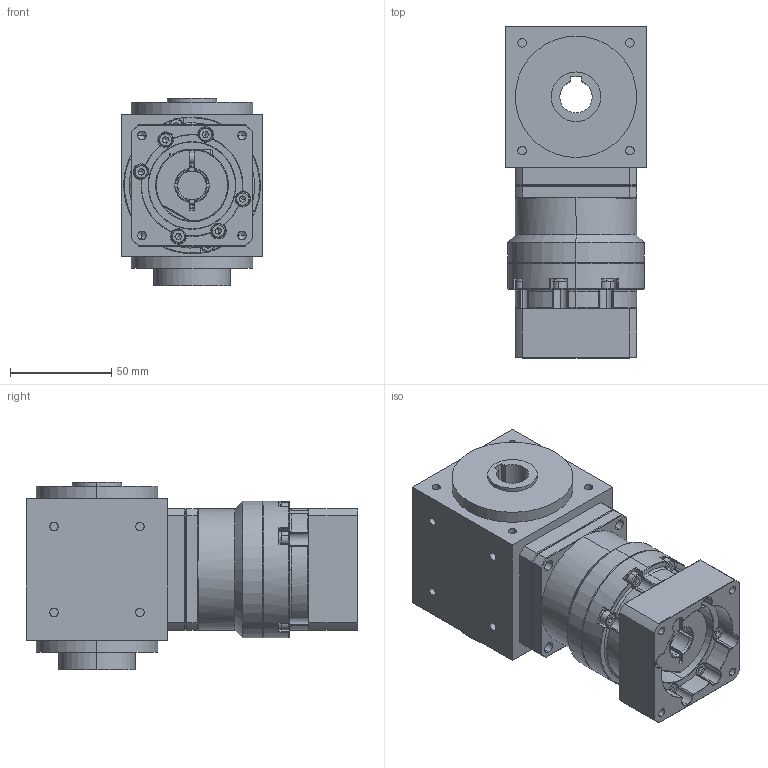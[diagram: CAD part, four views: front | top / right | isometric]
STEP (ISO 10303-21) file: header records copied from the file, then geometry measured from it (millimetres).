
FILE_DESCRIPTION (( 'STEP AP203' ), '1' );
FILE_NAME ('AAW070AS-L1-RFK 14-50-70-M5.STEP', '2024-12-23T08:41:50', ( '' ), ( '' ), 'SwSTEP 2.0', 'SolidWorks 2021', '' );
FILE_SCHEMA (( 'CONFIG_CONTROL_DESIGN' ));
Length unit declared in the file: millimetre
Products named in the file (3): AAW070AS-L1-RFK 14-50-70-M5; VRB-060-L1-S2-P1 14-50-70-M5
Assembly tree (2 placements, depth 2):
  AAW070AS-L1-RFK 14-50-70-M5
    AAW070AS-L1-RFK 14-50-70-M5
    VRB-060-L1-S2-P1 14-50-70-M5
Bounding box: 70 x 164 x 92.5 mm (x, y, z)
Volume: 613558.8 mm3; surface area: 104568.7 mm2
Topology: 32 solids, 32 shells, 1054 faces, 2543 edges, 1583 vertices
Faces by surface type: plane 421, cylinder 383, cone 188, torus 50, bspline 12
Entity records: 31560 total; most frequent: CARTESIAN_POINT 6418, DIRECTION 5518, ORIENTED_EDGE 4990, EDGE_CURVE 2495, AXIS2_PLACEMENT_3D 2204, VERTEX_POINT 1583, EDGE_LOOP 1176, CIRCLE 1157
